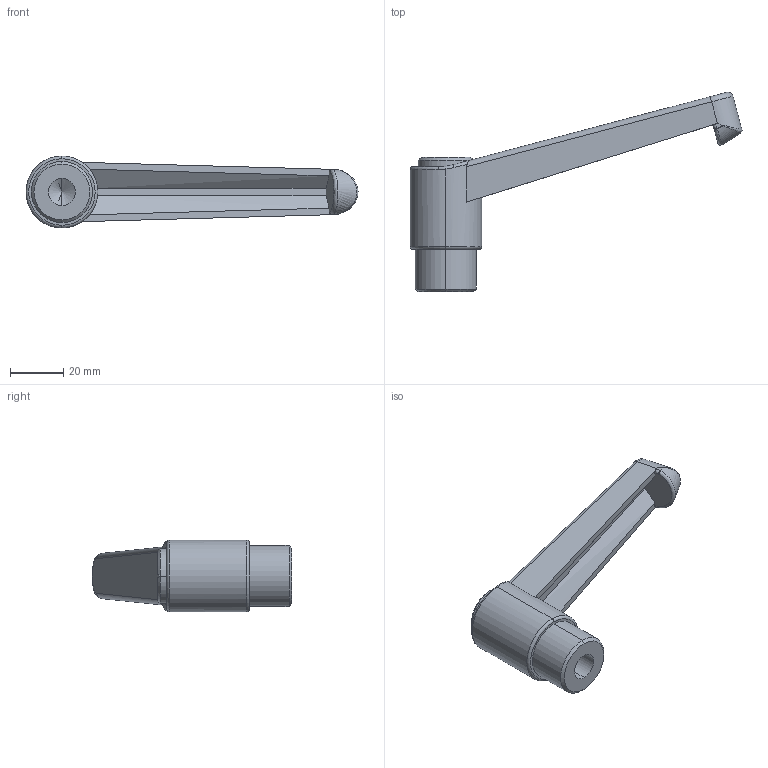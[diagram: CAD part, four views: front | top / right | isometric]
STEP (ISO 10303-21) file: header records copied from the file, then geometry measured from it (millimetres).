
FILE_DESCRIPTION (( 'STEP AP203' ), '1' );
FILE_NAME ('AS-405-108-M12.STEP', '2015-11-23T07:18:52', ( '' ), ( '' ), 'SwSTEP 2.0', 'SolidWorks 2014', '' );
FILE_SCHEMA (( 'CONFIG_CONTROL_DESIGN' ));
Length unit declared in the file: millimetre
Products named in the file (1): AS-405-108-M12
Bounding box: 124.91 x 75.05 x 27 mm (x, y, z)
Volume: 44157.2 mm3; surface area: 13260.8 mm2
Topology: 1 solids, 1 shells, 58 faces, 139 edges, 84 vertices
Faces by surface type: cylinder 16, plane 16, bspline 13, cone 6, torus 4, sphere 3
Entity records: 2428 total; most frequent: CARTESIAN_POINT 1133, ORIENTED_EDGE 274, DIRECTION 231, EDGE_CURVE 137, AXIS2_PLACEMENT_3D 96, VERTEX_POINT 84, EDGE_LOOP 61, ADVANCED_FACE 58
